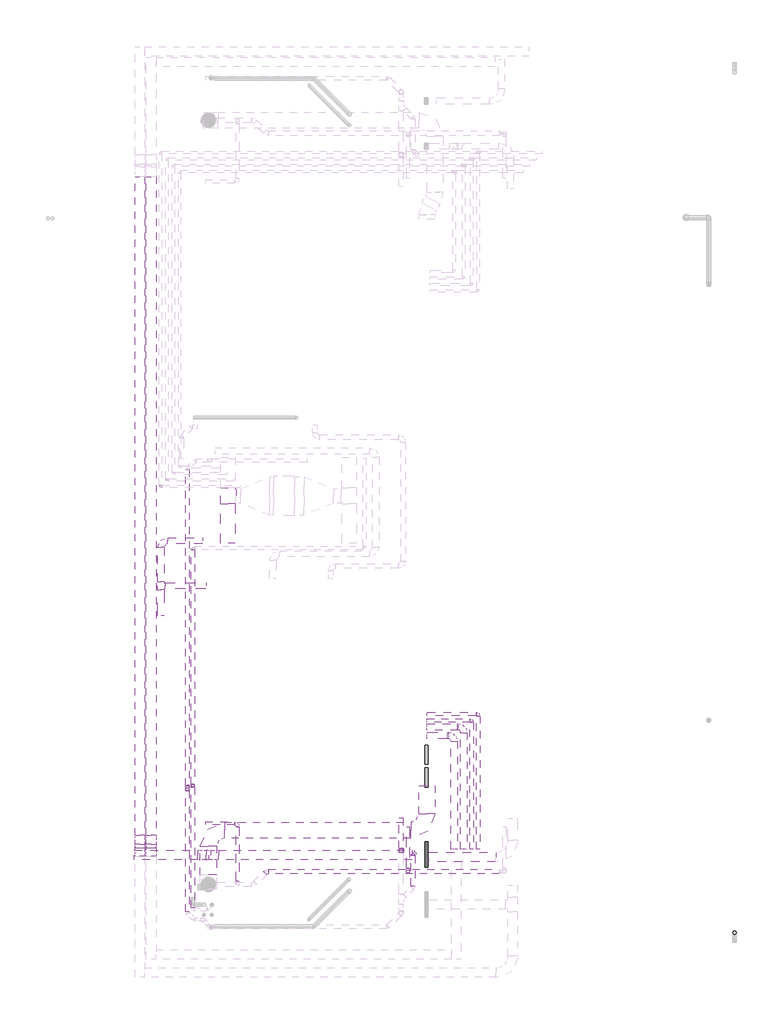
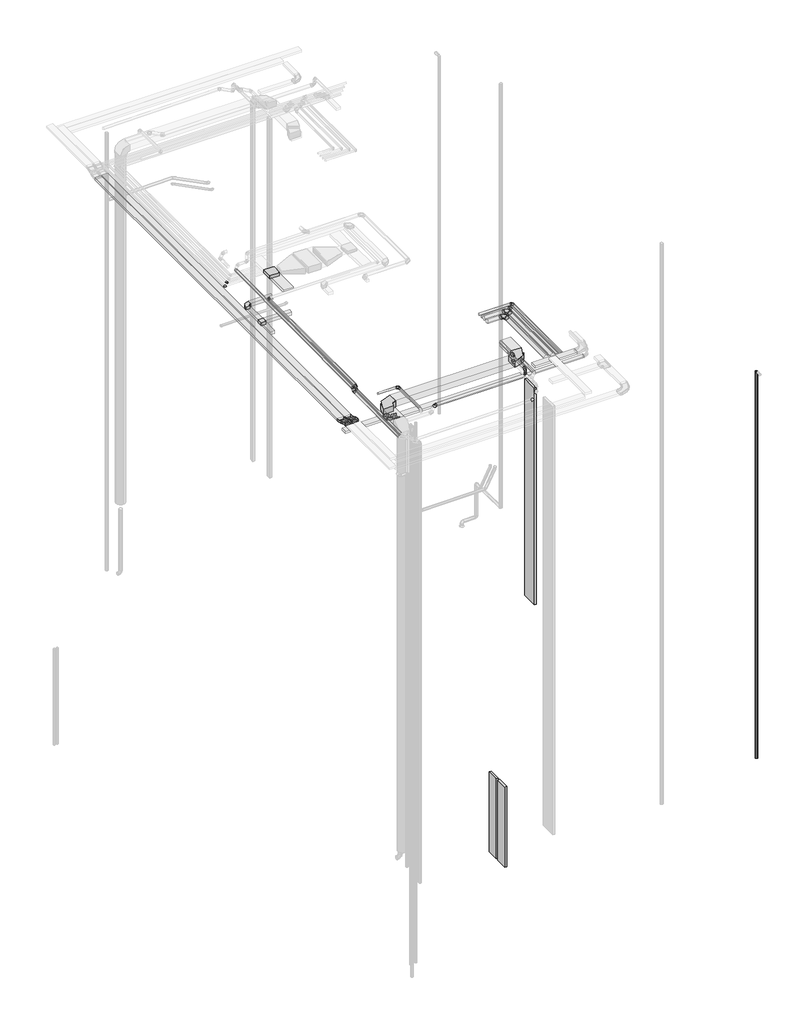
# One storey, part 2 of 5: 19 pipe segments, 14 pipe fittings, 13 duct segments, 11 cable carrier segments, 9 duct fittings, 6 cable carrier fittings.
"""IFC4 building model written with IfcOpenShell, lengths in millimetres."""

from ifc_helpers import new_model, si_unit, point, frame, frame_2d, origin, place, context, project, spatial, polyline, circle_curve, trimmed, segment, composite_curve, outline, extrude, transform, mapped, element, save
from components import m_codo_vertical_exterior_de_canal_el_547dc688, m_codo_vertical_interior_de_canal_el_a775c4ca, apt_33348139, ext_db029bdf, ext_fd4e5c35, m_codo_rectangular_radio_apt_1_w_a605e9b7, m_codo_rectangular_radio_ext_1_w_abe20169, m_codo_redondo_ext_1_d_96ea52f9, m_codo_redondo_ext_1_d_5003ae0d, pipe_fitting_8e92d537, pipe_fitting_3b77712d, pipe_fitting_2358b14d, pipe_fitting_3a68447e, pipe_fitting_87aeffad, pipe_fitting_620f18d1, pipe_fitting_207c3fd1

model = new_model("IFC4")

# Units and contexts
model_context = context("Model", 3, world=origin())
ifc_project = project(units=[si_unit("LENGTHUNIT", "METRE", prefix="MILLI")], contexts=[model_context])

# Site, building, storey
site = spatial("IfcSite", under=ifc_project)
building = spatial("IfcBuilding", under=site)
storey = spatial("IfcBuildingStorey", under=building, Name="Nivell 06 P06_PP", Elevation=29910.0)

# Cable carrier fittings
placement = place(None, origin())
m_codo_vertical_exterior_de_canal_el_shape = m_codo_vertical_exterior_de_canal_el_547dc688(model_context)
element("IfcCableCarrierFitting", 1, ObjectType="M_Codo vertical exterior de canal : EL", at=placement, inside=storey, context=model_context, shape_type="MappedRepresentation", body=[
    mapped(m_codo_vertical_exterior_de_canal_el_shape, transform((5357.0671065, -15355.3999814, 33160.0), x_axis=(0.0, 1.0, 0.0), y_axis=(0.0, 0.0, -1.0), z_axis=(-1.0, 0.0, 0.0))),
])
element("IfcCableCarrierFitting", 2, ObjectType="M_Codo vertical exterior de canal : EL", at=placement, inside=storey, context=model_context, shape_type="MappedRepresentation", body=[
    mapped(m_codo_vertical_exterior_de_canal_el_shape, transform((5008.2381883, -15355.3999814, 33160.0), x_axis=(0.0, -0.9238795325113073, 0.38268343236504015), y_axis=(0.0, -0.38268343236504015, -0.9238795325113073), z_axis=(1.0, 0.0, 0.0))),
])
element("IfcCableCarrierFitting", 3, ObjectType="M_Codo vertical exterior de canal : EL", at=placement, inside=storey, context=model_context, shape_type="MappedRepresentation", body=[
    mapped(m_codo_vertical_exterior_de_canal_el_shape, transform((6956.7785309, -15459.2996833, 32810.0), x_axis=(1.0, 0.0, 0.0), y_axis=(0.0, 0.0, -1.0), z_axis=(0.0, 1.0, 0.0))),
])
m_codo_vertical_interior_de_canal_el_shape = m_codo_vertical_interior_de_canal_el_a775c4ca(model_context)
element("IfcCableCarrierFitting", 4, ObjectType="M_Codo vertical interior de canal : EL", at=placement, inside=storey, context=model_context, shape_type="MappedRepresentation", body=[
    mapped(m_codo_vertical_interior_de_canal_el_shape, transform((5357.0671065, -14993.267947, 33010.0), x_axis=(0.0, 0.9238795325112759, -0.38268343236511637), y_axis=(0.0, 0.38268343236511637, 0.9238795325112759), z_axis=(1.0, 0.0, 0.0))),
])
element("IfcCableCarrierFitting", 5, ObjectType="M_Codo vertical interior de canal : EL", at=placement, inside=storey, context=model_context, shape_type="MappedRepresentation", body=[
    mapped(m_codo_vertical_interior_de_canal_el_shape, transform((5008.2381883, -14993.267947, 33010.0), x_axis=(0.0, -1.0, 0.0), y_axis=(0.0, 0.0, 1.0), z_axis=(-1.0, 0.0, 0.0))),
])
element("IfcCableCarrierFitting", 6, ObjectType="M_Codo vertical interior de canal : EL", at=placement, inside=storey, context=model_context, shape_type="MappedRepresentation", body=[
    mapped(m_codo_vertical_interior_de_canal_el_shape, transform((7318.9105653, -15459.2996833, 32660.0), x_axis=(0.9238795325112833, 0.0, -0.38268343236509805), y_axis=(0.38268343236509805, 0.0, 0.9238795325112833), z_axis=(0.0, -1.0, 0.0))),
])

# Cable carrier segments
element("IfcCableCarrierSegment", 7, ObjectType="EL", at=placement, inside=storey, context=model_context, shape_type="SweptSolid", body=[
    extrude(outline(polyline([(6812.1592023, -15309.2996833), (6812.1592023, -15609.2996833), (4831.7785309, -15609.2996833), (4831.7785309, -15309.2996833), (6812.1592023, -15309.2996833)])), frame((0.0, 0.0, 32760.0), z_axis=(0.0, 0.0, 1.0), x_axis=(1.0, 0.0, 0.0)), (0.0, 0.0, 1.0), 100.0),
])
element("IfcCableCarrierSegment", 8, ObjectType="EL", at=placement, inside=storey, context=model_context, shape_type="SweptSolid", body=[
    extrude(outline(polyline([(16089.6624278, -15371.1304394), (16089.6624278, -15671.1304394), (14011.0671065, -15671.1304394), (14011.0671065, -15371.1304394), (16089.6624278, -15371.1304394)])), frame((0.0, 0.0, 32960.0), z_axis=(0.0, 0.0, 1.0), x_axis=(1.0, 0.0, 0.0)), (0.0, 0.0, 1.0), 100.0),
])
element("IfcCableCarrierSegment", 9, ObjectType="EL", at=placement, inside=storey, context=model_context, shape_type="SweptSolid", body=[
    extrude(outline(polyline([(0.0, -300.0), (0.0, 0.0), (102.7302323, 0.0), (102.7302323, -300.0), (0.0, -300.0)])), frame((5207.0671065, -15240.9233153, 33058.4626023), z_axis=(0.0, 0.38268343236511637, 0.9238795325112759), x_axis=(0.0, 0.9238795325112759, -0.38268343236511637)), (0.0, 0.0, 1.0), 100.0),
])
element("IfcCableCarrierSegment", 10, ObjectType="EL", at=placement, inside=storey, context=model_context, shape_type="SweptSolid", body=[
    extrude(outline(polyline([(5507.0671065, -14848.6486184), (5207.0671065, -14848.6486184), (5207.0671065, 5634.423571), (5507.0671065, 5634.423571), (5507.0671065, -14848.6486184)])), frame((0.0, 0.0, 32960.0), z_axis=(0.0, 0.0, 1.0), x_axis=(1.0, 0.0, 0.0)), (0.0, 0.0, 1.0), 100.0),
])
element("IfcCableCarrierSegment", 11, ObjectType="EL", at=placement, inside=storey, context=model_context, shape_type="SweptSolid", body=[
    extrude(outline(polyline([(4858.2381883, 5634.423571), (5158.2381883, 5634.423571), (5158.2381883, -14848.6486184), (4858.2381883, -14848.6486184), (4858.2381883, 5634.423571)])), frame((0.0, 0.0, 32960.0), z_axis=(0.0, 0.0, 1.0), x_axis=(1.0, 0.0, 0.0)), (0.0, 0.0, 1.0), 100.0),
])
element("IfcCableCarrierSegment", 12, ObjectType="EL", at=placement, inside=storey, context=model_context, shape_type="SweptSolid", body=[
    extrude(outline(polyline([(0.0, -300.0), (0.0, 0.0), (102.7302323, 0.0), (102.7302323, -300.0), (0.0, -300.0)])), frame((5158.2381883, -15146.0129563, 33019.1494444), z_axis=(0.0, 0.3826834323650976, 0.9238795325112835), x_axis=(0.0, -0.9238795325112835, 0.3826834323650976)), (0.0, 0.0, 1.0), 100.0),
])
element("IfcCableCarrierSegment", 13, ObjectType="EL", at=placement, inside=storey, context=model_context, shape_type="SweptSolid", body=[
    extrude(outline(polyline([(7463.5298938, -15609.2996833), (7463.5298938, -15309.2996833), (13469.9876148, -15309.2996833), (13469.9876148, -15609.2996833), (7463.5298938, -15609.2996833)])), frame((0.0, 0.0, 32610.0), z_axis=(0.0, 0.0, 1.0), x_axis=(1.0, 0.0, 0.0)), (0.0, 0.0, 1.0), 100.0),
])
element("IfcCableCarrierSegment", 14, ObjectType="EL", at=placement, inside=storey, context=model_context, shape_type="SweptSolid", body=[
    extrude(outline(polyline([(0.0, -300.0), (0.0, 0.0), (102.7302323, 0.0), (102.7302323, -300.0), (0.0, -300.0)])), frame((7071.255197, -15309.2996833, 32708.4626023), z_axis=(0.38268343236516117, 0.0, 0.9238795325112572), x_axis=(0.9238795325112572, 0.0, -0.38268343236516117)), (0.0, 0.0, 1.0), 100.0),
])
element("IfcCableCarrierSegment", 15, ObjectType="SF", at=placement, inside=storey, context=model_context, shape_type="SweptSolid", body=[
    extrude(outline(polyline([(13974.6624278, -15038.9944754), (13974.6624278, -15838.9944754), (13874.6624278, -15838.9944754), (13874.6624278, -15038.9944754), (13974.6624278, -15038.9944754)])), frame((0.0, 0.0, 20935.0), z_axis=(0.0, 0.0, 1.0), x_axis=(1.0, 0.0, 0.0)), (0.0, 0.0, 1.0), 11143.2),
])
element("IfcCableCarrierSegment", 16, ObjectType="SF", at=placement, inside=storey, context=model_context, shape_type="SweptSolid", body=[
    extrude(outline(polyline([(49.9999999, -4.1381265), (49.9999999, -604.1381265), (-50.0, -604.1381265), (-50.0, -4.1381265), (49.9999999, -4.1381265)])), frame((13924.6410692, -12643.1326018, 5910.0000002), z_axis=(-3.1479117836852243e-06, -7.891726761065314e-12, 0.9999999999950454), x_axis=(-0.9999999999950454, 0.0, -3.1479117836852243e-06)), (0.0, 0.0, 1.0), 4120.0),
])
element("IfcCableCarrierSegment", 17, ObjectType="SF", at=placement, inside=storey, context=model_context, shape_type="SweptSolid", body=[
    extrude(outline(polyline([(49.9999999, -4.1381265), (49.9999999, -604.1381265), (-50.0, -604.1381265), (-50.0, -4.1381265), (49.9999999, -4.1381265)])), frame((13924.6410692, -13343.1326018, 5910.0000002), z_axis=(-3.1479117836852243e-06, -7.891726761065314e-12, 0.9999999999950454), x_axis=(-0.9999999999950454, 0.0, -3.1479117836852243e-06)), (0.0, 0.0, 1.0), 4120.0),
])

# Duct fittings
apt_shape = apt_33348139(model_context)
element("IfcDuctFitting", 18, ObjectType="M_Te rectangular : APT", at=placement, inside=storey, context=model_context, shape_type="MappedRepresentation", body=[
    mapped(apt_shape, transform((5665.7790997, -7084.7059364, 33060.0), x_axis=(0.0, 1.0, 0.0), y_axis=(-1.0, 0.0, 0.0), z_axis=(0.0, 0.0, 1.0))),
])
ext_shape = ext_db029bdf(model_context)
element("IfcDuctFitting", 19, ObjectType="M_Toma de derivación redonda : EXT", at=placement, inside=storey, context=model_context, shape_type="MappedRepresentation", body=[
    mapped(ext_shape, transform((13350.5896993, -15972.9719502, 33090.0), x_axis=(0.0, 0.0, 1.0), y_axis=(-1.0, 0.0, 0.0), z_axis=(0.0, -1.0, 0.0))),
])
ext_2_shape = ext_fd4e5c35(model_context)
element("IfcDuctFitting", 20, ObjectType="M_Te rectangular : EXT", at=placement, inside=storey, context=model_context, shape_type="MappedRepresentation", body=[
    mapped(ext_2_shape, transform((7746.1618178, -4289.9878585, 33167.5), x_axis=(0.0, 1.0, 0.0), y_axis=(-1.0, 0.0, 0.0), z_axis=(0.0, 0.0, 1.0))),
])
m_codo_rectangular_radio_apt_1_w_shape = m_codo_rectangular_radio_apt_1_w_a605e9b7(model_context)
element("IfcDuctFitting", 21, ObjectType="M_Codo rectangular - Radio : APT_1 W", at=placement, inside=storey, context=model_context, shape_type="MappedRepresentation", body=[
    mapped(m_codo_rectangular_radio_apt_1_w_shape, transform((5665.7790997, -5684.7059364, 33060.0), x_axis=(-1.0, 0.0, 0.0), y_axis=(0.0, -1.0, 0.0), z_axis=(0.0, 0.0, 1.0))),
])
m_codo_rectangular_radio_ext_1_w_shape = m_codo_rectangular_radio_ext_1_w_abe20169(model_context)
element("IfcDuctFitting", 22, ObjectType="M_Codo rectangular - Radio : EXT_1 W", at=placement, inside=storey, context=model_context, shape_type="MappedRepresentation", body=[
    mapped(m_codo_rectangular_radio_ext_1_w_shape, transform((7139.9876148, -14682.0405418, 32910.0), x_axis=(-1.0, 0.0, 0.0), y_axis=(0.0, -1.0, 0.0), z_axis=(0.0, 0.0, 1.0))),
])
element("IfcDuctFitting", 23, ObjectType="M_Codo rectangular - Radio : EXT_1 W", at=placement, inside=storey, context=model_context, shape_type="MappedRepresentation", body=[
    mapped(m_codo_rectangular_radio_ext_1_w_shape, transform((13940.4053207, -14682.0405418, 32910.0), x_axis=(1.0, 0.0, 0.0), y_axis=(0.0, 1.0, 0.0), z_axis=(0.0, 0.0, 1.0))),
])
m_codo_redondo_ext_1_d_shape = m_codo_redondo_ext_1_d_96ea52f9(model_context)
element("IfcDuctFitting", 24, ObjectType="M_Codo redondo : EXT_1 D", at=placement, inside=storey, context=model_context, shape_type="MappedRepresentation", body=[
    mapped(m_codo_redondo_ext_1_d_shape, transform((8050.5896993, -14471.4839002, 33360.0), x_axis=(1.0, 0.0, 0.0), y_axis=(0.0, 1.0, 0.0), z_axis=(0.0, 0.0, 1.0))),
])
element("IfcDuctFitting", 25, ObjectType="M_Codo redondo : EXT_1 D", at=placement, inside=storey, context=model_context, shape_type="MappedRepresentation", body=[
    mapped(m_codo_redondo_ext_1_d_shape, transform((13350.5896993, -15972.9719502, 33360.0), x_axis=(0.0, -1.0, 0.0), y_axis=(0.0, 0.0, 1.0), z_axis=(-1.0, 0.0, 0.0))),
])
m_codo_redondo_ext_1_d_2_shape = m_codo_redondo_ext_1_d_5003ae0d(model_context)
element("IfcDuctFitting", 26, ObjectType="M_Codo redondo : EXT_1 D", at=placement, inside=storey, context=model_context, shape_type="MappedRepresentation", body=[
    mapped(m_codo_redondo_ext_1_d_2_shape, transform((8950.5896993, -15972.9719502, 33015.0), x_axis=(0.7071067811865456, 0.7071067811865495, 0.0), y_axis=(-0.7071067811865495, 0.7071067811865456, 0.0), z_axis=(0.0, 0.0, 1.0))),
])

# Duct segments
element("IfcDuctSegment", 27, ObjectType="APT_Fibra de vidre rígida", at=placement, inside=storey, context=model_context, shape_type="SweptSolid", body=[
    extrude(outline(polyline([(7065.7790997, -6984.7059364), (7065.7790997, -7184.7059364), (5790.7790997, -7184.7059364), (5790.7790997, -6984.7059364), (7065.7790997, -6984.7059364)])), frame((0.0, 0.0, 32985.0), z_axis=(0.0, 0.0, 1.0), x_axis=(1.0, 0.0, 0.0)), (0.0, 0.0, 1.0), 150.0),
])
element("IfcDuctSegment", 28, ObjectType="APT_Fibra de vidre rígida", at=placement, inside=storey, context=model_context, shape_type="SweptSolid", body=[
    extrude(outline(polyline([(5765.7790997, -6959.7059364), (5565.7790997, -6959.7059364), (5565.7790997, -5884.7059364), (5765.7790997, -5884.7059364), (5765.7790997, -6959.7059364)])), frame((0.0, 0.0, 32985.0), z_axis=(0.0, 0.0, 1.0), x_axis=(1.0, 0.0, 0.0)), (0.0, 0.0, 1.0), 150.0),
])
element("IfcDuctSegment", 29, ObjectType="APT_Fibra de vidre rígida", at=placement, inside=storey, context=model_context, shape_type="SweptSolid", body=[
    extrude(outline(polyline([(5865.7790997, -5784.7059364), (5865.7790997, -5584.7059364), (6965.7790997, -5584.7059364), (6965.7790997, -5784.7059364), (5865.7790997, -5784.7059364)])), frame((0.0, 0.0, 32985.0), z_axis=(0.0, 0.0, 1.0), x_axis=(1.0, 0.0, 0.0)), (0.0, 0.0, 1.0), 150.0),
])
element("IfcDuctSegment", 30, ObjectType="APT_Fibra de vidre rígida", at=placement, inside=storey, context=model_context, shape_type="SweptSolid", body=[
    extrude(outline(polyline([(5565.7790997, -7209.7059364), (5765.7790997, -7209.7059364), (5765.7790997, -8009.7059364), (5565.7790997, -8009.7059364), (5565.7790997, -7209.7059364)])), frame((0.0, 0.0, 32985.0), z_axis=(0.0, 0.0, 1.0), x_axis=(1.0, 0.0, 0.0)), (0.0, 0.0, 1.0), 150.0),
])
element("IfcDuctSegment", 31, ObjectType="EXT_Acer Galvanitzat - Rígid", at=placement, inside=storey, context=model_context, shape_type="SweptSolid", body=[
    extrude(outline(composite_curve([segment(trimmed(circle_curve(frame_2d((-15972.9719502, 33015.0)), 75.0), [point((-15897.9719502, 33015.0))], [point((-15972.9719502, 32940.0))], False, "CARTESIAN"), True, "CONTINUOUS"), segment(trimmed(circle_curve(frame_2d((-15972.9719502, 33015.0)), 75.0), [point((-15972.9719502, 32940.0))], [point((-16047.9719502, 33015.0))], False, "CARTESIAN"), True, "CONTINUOUS"), segment(trimmed(circle_curve(frame_2d((-15972.9719502, 33015.0)), 75.0), [point((-16047.9719502, 33015.0))], [point((-15972.9719502, 33090.0))], False, "CARTESIAN"), True, "CONTINUOUS"), segment(trimmed(circle_curve(frame_2d((-15972.9719502, 33015.0)), 75.0), [point((-15972.9719502, 33090.0))], [point((-15897.9719502, 33015.0))], False, "CARTESIAN"), True, "CONTINUOUS")], self_intersect=False)), frame((9012.7217336, 0.0, 0.0), z_axis=(1.0, 0.0, 0.0), x_axis=(0.0, 1.0, 0.0)), (0.0, 0.0, 1.0), 7177.5126266),
])
element("IfcDuctSegment", 32, ObjectType="EXT_Acer Galvanitzat - Rígid", at=placement, inside=storey, context=model_context, shape_type="SweptSolid", body=[
    extrude(outline(composite_curve([segment(trimmed(circle_curve(frame_2d((-14471.4839002, 33360.0)), 50.0), [point((-14521.4839002, 33360.0))], [point((-14471.4839002, 33410.0))], False, "CARTESIAN"), True, "CONTINUOUS"), segment(trimmed(circle_curve(frame_2d((-14471.4839002, 33360.0)), 50.0), [point((-14471.4839002, 33410.0))], [point((-14421.4839002, 33360.0))], False, "CARTESIAN"), True, "CONTINUOUS"), segment(trimmed(circle_curve(frame_2d((-14471.4839002, 33360.0)), 50.0), [point((-14421.4839002, 33360.0))], [point((-14471.4839002, 33310.0))], False, "CARTESIAN"), True, "CONTINUOUS"), segment(trimmed(circle_curve(frame_2d((-14471.4839002, 33360.0)), 50.0), [point((-14471.4839002, 33310.0))], [point((-14521.4839002, 33360.0))], False, "CARTESIAN"), True, "CONTINUOUS")], self_intersect=False)), frame((7050.5896993, 0.0, 0.0), z_axis=(1.0, 0.0, 0.0), x_axis=(0.0, 1.0, 0.0)), (0.0, 0.0, 1.0), 900.0),
])
element("IfcDuctSegment", 33, ObjectType="EXT_Acer Galvanitzat - Rígid", at=placement, inside=storey, context=model_context, shape_type="SweptSolid", body=[
    extrude(outline(composite_curve([segment(trimmed(circle_curve(frame_2d((33360.0, 8050.5896993)), 50.0), [point((33360.0, 8100.5896993))], [point((33410.0, 8050.5896993))], False, "CARTESIAN"), True, "CONTINUOUS"), segment(trimmed(circle_curve(frame_2d((33360.0, 8050.5896993)), 50.0), [point((33410.0, 8050.5896993))], [point((33360.0, 8000.5896993))], False, "CARTESIAN"), True, "CONTINUOUS"), segment(trimmed(circle_curve(frame_2d((33360.0, 8050.5896993)), 50.0), [point((33360.0, 8000.5896993))], [point((33310.0, 8050.5896993))], False, "CARTESIAN"), True, "CONTINUOUS"), segment(trimmed(circle_curve(frame_2d((33360.0, 8050.5896993)), 50.0), [point((33310.0, 8050.5896993))], [point((33360.0, 8100.5896993))], False, "CARTESIAN"), True, "CONTINUOUS")], self_intersect=False)), frame((0.0, -16269.0292533, 0.0), z_axis=(0.0, 1.0, 0.0), x_axis=(0.0, 0.0, 1.0)), (0.0, 0.0, 1.0), 1697.545353),
])
element("IfcDuctSegment", 34, ObjectType="EXT_Acer Galvanitzat - Rígid", at=placement, inside=storey, context=model_context, shape_type="SweptSolid", body=[
    extrude(outline(composite_curve([segment(trimmed(circle_curve(frame_2d((33360.0, 13350.5896993)), 50.0), [point((33360.0, 13400.5896993))], [point((33410.0, 13350.5896993))], False, "CARTESIAN"), True, "CONTINUOUS"), segment(trimmed(circle_curve(frame_2d((33360.0, 13350.5896993)), 50.0), [point((33410.0, 13350.5896993))], [point((33360.0, 13300.5896993))], False, "CARTESIAN"), True, "CONTINUOUS"), segment(trimmed(circle_curve(frame_2d((33360.0, 13350.5896993)), 50.0), [point((33360.0, 13300.5896993))], [point((33310.0, 13350.5896993))], False, "CARTESIAN"), True, "CONTINUOUS"), segment(trimmed(circle_curve(frame_2d((33360.0, 13350.5896993)), 50.0), [point((33310.0, 13350.5896993))], [point((33360.0, 13400.5896993))], False, "CARTESIAN"), True, "CONTINUOUS")], self_intersect=False)), frame((0.0, -15872.9719502, 0.0), z_axis=(0.0, 1.0, 0.0), x_axis=(0.0, 0.0, 1.0)), (0.0, 0.0, 1.0), 1301.48805),
])
element("IfcDuctSegment", 35, ObjectType="EXT_Acer Galvanitzat - Rígid", at=placement, inside=storey, context=model_context, shape_type="SweptSolid", body=[
    extrude(outline(composite_curve([segment(trimmed(circle_curve(frame_2d((13350.5896993, -15972.9719502)), 50.0), [point((13300.5896993, -15972.9719502))], [point((13350.5896993, -15922.9719502))], False, "CARTESIAN"), True, "CONTINUOUS"), segment(trimmed(circle_curve(frame_2d((13350.5896993, -15972.9719502)), 50.0), [point((13350.5896993, -15922.9719502))], [point((13400.5896993, -15972.9719502))], False, "CARTESIAN"), True, "CONTINUOUS"), segment(trimmed(circle_curve(frame_2d((13350.5896993, -15972.9719502)), 50.0), [point((13400.5896993, -15972.9719502))], [point((13350.5896993, -16022.9719502))], False, "CARTESIAN"), True, "CONTINUOUS"), segment(trimmed(circle_curve(frame_2d((13350.5896993, -15972.9719502)), 50.0), [point((13350.5896993, -16022.9719502))], [point((13300.5896993, -15972.9719502))], False, "CARTESIAN"), True, "CONTINUOUS")], self_intersect=False)), frame((0.0, 0.0, 33191.6), z_axis=(0.0, 0.0, 1.0), x_axis=(1.0, 0.0, 0.0)), (0.0, 0.0, 1.0), 68.4),
])
element("IfcDuctSegment", 36, ObjectType="EXT_Planxa galvanitzada", at=placement, inside=storey, context=model_context, shape_type="SweptSolid", body=[
    extrude(outline(polyline([(14190.4053207, -14182.0405418), (13690.4053207, -14182.0405418), (13690.4053207, -13301.757421), (14190.4053207, -13301.757421), (14190.4053207, -14182.0405418)])), frame((0.0, 0.0, 32760.0), z_axis=(0.0, 0.0, 1.0), x_axis=(1.0, 0.0, 0.0)), (0.0, 0.0, 1.0), 300.0),
])
element("IfcDuctSegment", 37, ObjectType="EXT_Planxa galvanitzada", at=placement, inside=storey, context=model_context, shape_type="SweptSolid", body=[
    extrude(outline(polyline([(13440.4053207, -14432.0405418), (13440.4053207, -14932.0405418), (7639.9876148, -14932.0405418), (7639.9876148, -14432.0405418), (13440.4053207, -14432.0405418)])), frame((0.0, 0.0, 32760.0), z_axis=(0.0, 0.0, 1.0), x_axis=(1.0, 0.0, 0.0)), (0.0, 0.0, 1.0), 300.0),
])
element("IfcDuctSegment", 38, ObjectType="EXT_Planxa galvanitzada", at=placement, inside=storey, context=model_context, shape_type="SweptSolid", body=[
    extrude(outline(polyline([(7389.9876148, -16072.3280883), (6889.9876148, -16072.3280883), (6889.9876148, -15182.0405418), (7389.9876148, -15182.0405418), (7389.9876148, -16072.3280883)])), frame((0.0, 0.0, 32760.0), z_axis=(0.0, 0.0, 1.0), x_axis=(1.0, 0.0, 0.0)), (0.0, 0.0, 1.0), 300.0),
])
element("IfcDuctSegment", 39, ObjectType="EXT_Planxa galvanitzada", at=placement, inside=storey, context=model_context, shape_type="SweptSolid", body=[
    extrude(outline(polyline([(7521.1618178, -4539.9878585), (7971.1618178, -4539.9878585), (7971.1618178, -5765.0566725), (7521.1618178, -5765.0566725), (7521.1618178, -4539.9878585)])), frame((0.0, 0.0, 33092.5), z_axis=(0.0, 0.0, 1.0), x_axis=(1.0, 0.0, 0.0)), (0.0, 0.0, 1.0), 150.0),
])

# Pipe fittings
pipe_fitting_shape = pipe_fitting_8e92d537(model_context)
element("IfcPipeFitting", 40, ObjectType="M_Codo - Genérico : Estándar", at=placement, inside=storey, context=model_context, shape_type="MappedRepresentation", body=[
    mapped(pipe_fitting_shape, transform((13138.8500573, -15322.6757311, 33759.3648844), x_axis=(0.0, -0.9999500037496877, -0.009999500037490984), y_axis=(0.0, 0.009999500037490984, -0.9999500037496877), z_axis=(1.0, 0.0, 0.0))),
])
element("IfcPipeFitting", 41, ObjectType="M_Codo - Genérico : Estándar", at=placement, inside=storey, context=model_context, shape_type="MappedRepresentation", body=[
    mapped(pipe_fitting_shape, transform((13138.8606753, -15322.675714, 33389.2435958), x_axis=(0.0, 0.0, -1.0), y_axis=(0.0, -1.0, 0.0), z_axis=(-1.0, 0.0, 0.0))),
])
pipe_fitting_2_shape = pipe_fitting_3b77712d(model_context)
element("IfcPipeFitting", 42, ObjectType="M_Codo - Genérico : Estándar", at=placement, inside=storey, context=model_context, shape_type="MappedRepresentation", body=[
    mapped(pipe_fitting_2_shape, transform((15537.4352568, -11073.2087902, 32965.0), x_axis=(1.0, 0.0, 0.0), y_axis=(0.0, 1.0, 0.0), z_axis=(0.0, 0.0, 1.0))),
])
element("IfcPipeFitting", 43, ObjectType="M_Codo - Genérico : Estándar", at=placement, inside=storey, context=model_context, shape_type="MappedRepresentation", body=[
    mapped(pipe_fitting_2_shape, transform((15337.4352568, -11273.2087902, 32965.0), x_axis=(1.0, 0.0, 0.0), y_axis=(0.0, 1.0, 0.0), z_axis=(0.0, 0.0, 1.0))),
])
pipe_fitting_3_shape = pipe_fitting_2358b14d(model_context)
element("IfcPipeFitting", 44, ObjectType="Codo 90º Soldadura a Tope SDR 11 BluePipe : Estándar", at=placement, inside=storey, context=model_context, shape_type="MappedRepresentation", body=[
    mapped(pipe_fitting_3_shape, transform((14787.4352568, -11743.2087902, 33010.0), x_axis=(1.0, 0.0, 0.0), y_axis=(0.0, 1.0, 0.0), z_axis=(0.0, 0.0, 1.0))),
])
element("IfcPipeFitting", 45, ObjectType="Codo 90º Soldadura a Tope SDR 11 BluePipe : Estándar", at=placement, inside=storey, context=model_context, shape_type="MappedRepresentation", body=[
    mapped(pipe_fitting_3_shape, transform((15087.4352568, -11473.2087902, 33010.0), x_axis=(1.0, 0.0, 0.0), y_axis=(0.0, 1.0, 0.0), z_axis=(0.0, 0.0, 1.0))),
])
pipe_fitting_4_shape = pipe_fitting_3a68447e(model_context)
element("IfcPipeFitting", 46, ObjectType="M_Codo - Genérico : Estándar", at=placement, inside=storey, context=model_context, shape_type="MappedRepresentation", body=[
    mapped(pipe_fitting_4_shape, transform((5845.7381883, -3794.9253722, 33022.5), x_axis=(0.0, -1.0, 0.0), y_axis=(1.0, 0.0, 0.0), z_axis=(0.0, 0.0, 1.0))),
])
element("IfcPipeFitting", 47, ObjectType="M_Codo - Genérico : Estándar", at=placement, inside=storey, context=model_context, shape_type="MappedRepresentation", body=[
    mapped(pipe_fitting_4_shape, transform((5645.7381883, -3994.9253722, 33022.5), x_axis=(0.0, -1.0, 0.0), y_axis=(1.0, 0.0, 0.0), z_axis=(0.0, 0.0, 1.0))),
])
pipe_fitting_5_shape = pipe_fitting_87aeffad(model_context)
element("IfcPipeFitting", 48, ObjectType="M_Codo - Genérico : Estándar", at=placement, inside=storey, context=model_context, shape_type="MappedRepresentation", body=[
    mapped(pipe_fitting_5_shape, transform((6653.8941113, -5912.8731458, 33210.8), x_axis=(-1.0, 0.0, 0.0), y_axis=(0.0, -1.0, 0.0), z_axis=(0.0, 0.0, 1.0))),
])
element("IfcPipeFitting", 49, ObjectType="M_Codo - Genérico : Estándar", at=placement, inside=storey, context=model_context, shape_type="MappedRepresentation", body=[
    mapped(pipe_fitting_5_shape, transform((6653.8941113, -13303.5043958, 33210.8), x_axis=(0.0, -1.0, 0.0), y_axis=(0.0, 0.0, -1.0), z_axis=(1.0, 0.0, 0.0))),
])
element("IfcPipeFitting", 50, ObjectType="M_Codo - Genérico : Estándar", at=placement, inside=storey, context=model_context, shape_type="MappedRepresentation", body=[
    mapped(pipe_fitting_5_shape, transform((6653.8941113, -13303.5043958, 33039.2), x_axis=(0.0, 1.0, 0.0), y_axis=(0.0, 0.0, 1.0), z_axis=(1.0, 0.0, 0.0))),
])
pipe_fitting_6_shape = pipe_fitting_620f18d1(model_context)
element("IfcPipeFitting", 51, ObjectType="M_Codo - Genérico : Estándar", at=placement, inside=storey, context=model_context, shape_type="MappedRepresentation", body=[
    mapped(pipe_fitting_6_shape, transform((13513.9151147, -15438.203365, 33389.642267), x_axis=(-0.706897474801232, -0.7072453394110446, -0.009999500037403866), y_axis=(0.7073039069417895, -0.706897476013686, -0.004140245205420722), z_axis=(-0.004140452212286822, -0.00999941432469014, 0.9999414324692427))),
])
pipe_fitting_7_shape = pipe_fitting_207c3fd1(model_context)
element("IfcPipeFitting", 52, ObjectType="M_Codo - Genérico : Estándar", at=placement, inside=storey, context=model_context, shape_type="MappedRepresentation", body=[
    mapped(pipe_fitting_7_shape, transform((6489.9549591, -13317.3596668, 33160.2690936), x_axis=(0.0, -0.9999500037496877, -0.009999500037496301), y_axis=(0.0, 0.009999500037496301, -0.9999500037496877), z_axis=(1.0, 0.0, 0.0))),
])
element("IfcPipeFitting", 53, ObjectType="M_Codo - Genérico : Estándar", at=placement, inside=storey, context=model_context, shape_type="MappedRepresentation", body=[
    mapped(pipe_fitting_7_shape, transform((6489.9549591, -13438.5717881, 33039.0569724), x_axis=(0.0, 0.9999500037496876, 0.009999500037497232), y_axis=(0.0, -0.009999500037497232, 0.9999500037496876), z_axis=(1.0, 0.0, 0.0))),
])

# Pipe segments
element("IfcPipeSegment", 54, ObjectType="PVC_Baixant", at=placement, inside=storey, context=model_context, shape_type="SweptSolid", body=[
    extrude(outline(composite_curve([segment(trimmed(circle_curve(frame_2d((0.0, -62.5000001)), 62.5), [point((-62.5, -62.5000001))], [point((0.0, 0.0))], False, "CARTESIAN"), True, "CONTINUOUS"), segment(trimmed(circle_curve(frame_2d((0.0, -62.5000001)), 62.5), [point((0.0, 0.0))], [point((62.5, -62.5000001))], False, "CARTESIAN"), True, "CONTINUOUS"), segment(trimmed(circle_curve(frame_2d((0.0, -62.5000001)), 62.5), [point((62.5, -62.5000001))], [point((0.0, -125.0))], False, "CARTESIAN"), True, "CONTINUOUS"), segment(trimmed(circle_curve(frame_2d((0.0, -62.5000001)), 62.5), [point((0.0, -125.0))], [point((-62.5, -62.5000001))], False, "CARTESIAN"), True, "CONTINUOUS")], self_intersect=False)), frame((13138.8500573, -15251.3276017, 33697.5752407), z_axis=(0.0, 0.9999500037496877, 0.009999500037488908), x_axis=(1.0, 0.0, 0.0)), (0.0, 0.0, 1.0), 951.6070688),
])
element("IfcPipeSegment", 55, ObjectType="PVC_Baixant", at=placement, inside=storey, context=model_context, shape_type="SweptSolid", body=[
    extrude(outline(composite_curve([segment(trimmed(circle_curve(frame_2d((0.0, -62.5)), 62.5), [point((-62.5, -62.5))], [point((0.0, 0.0))], False, "CARTESIAN"), True, "CONTINUOUS"), segment(trimmed(circle_curve(frame_2d((0.0, -62.5)), 62.5), [point((0.0, 0.0))], [point((62.5000001, -62.5))], False, "CARTESIAN"), True, "CONTINUOUS"), segment(trimmed(circle_curve(frame_2d((0.0, -62.5)), 62.5), [point((62.5000001, -62.5))], [point((0.0, -125.0))], False, "CARTESIAN"), True, "CONTINUOUS"), segment(trimmed(circle_curve(frame_2d((0.0, -62.5)), 62.5), [point((0.0, -125.0))], [point((-62.5, -62.5))], False, "CARTESIAN"), True, "CONTINUOUS")], self_intersect=False)), frame((13138.8606753, -15385.175714, 33459.9702879), z_axis=(-4.643391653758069e-05, -7.479517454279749e-08, 0.9999999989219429), x_axis=(-0.9999999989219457, 3.4745539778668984e-12, -4.643391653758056e-05)), (0.0, 0.0, 1.0), 228.6678952),
])
element("IfcPipeSegment", 56, ObjectType="PVC_Baixant", at=placement, inside=storey, context=model_context, shape_type="SweptSolid", body=[
    extrude(outline(composite_curve([segment(trimmed(circle_curve(frame_2d((0.0, -55.0)), 55.0), [point((-55.0, -55.0))], [point((0.0, 0.0))], False, "CARTESIAN"), True, "CONTINUOUS"), segment(trimmed(circle_curve(frame_2d((0.0, -55.0)), 55.0), [point((0.0, 0.0))], [point((55.0, -55.0))], False, "CARTESIAN"), True, "CONTINUOUS"), segment(trimmed(circle_curve(frame_2d((0.0, -55.0)), 55.0), [point((55.0, -55.0))], [point((0.0, -110.0))], False, "CARTESIAN"), True, "CONTINUOUS"), segment(trimmed(circle_curve(frame_2d((0.0, -55.0)), 55.0), [point((0.0, -110.0))], [point((-55.0, -55.0))], False, "CARTESIAN"), True, "CONTINUOUS")], self_intersect=False)), frame((6489.9549591, -17224.2051829, 32946.1978885), z_axis=(0.0, 0.9999500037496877, 0.009999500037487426), x_axis=(1.0, 0.0, 0.0)), (0.0, 0.0, 1.0), 3760.6710139),
])
element("IfcPipeSegment", 57, ObjectType="PPR_CLI_Aquatherm Blue Pipe", at=placement, inside=storey, context=model_context, shape_type="SweptSolid", body=[
    extrude(outline(composite_curve([segment(trimmed(circle_curve(frame_2d((-11743.2087902, 33010.0)), 100.0), [point((-11643.2087902, 33010.0))], [point((-11743.2087902, 32910.0))], False, "CARTESIAN"), True, "CONTINUOUS"), segment(trimmed(circle_curve(frame_2d((-11743.2087902, 33010.0)), 100.0), [point((-11743.2087902, 32910.0))], [point((-11843.2087902, 33010.0))], False, "CARTESIAN"), True, "CONTINUOUS"), segment(trimmed(circle_curve(frame_2d((-11743.2087902, 33010.0)), 100.0), [point((-11843.2087902, 33010.0))], [point((-11743.2087902, 33110.0))], False, "CARTESIAN"), True, "CONTINUOUS"), segment(trimmed(circle_curve(frame_2d((-11743.2087902, 33010.0)), 100.0), [point((-11743.2087902, 33110.0))], [point((-11643.2087902, 33010.0))], False, "CARTESIAN"), True, "CONTINUOUS")], self_intersect=False)), frame((13947.4352568, 0.0, 0.0), z_axis=(1.0, 0.0, 0.0), x_axis=(0.0, 1.0, 0.0)), (0.0, 0.0, 1.0), 665.0),
])
element("IfcPipeSegment", 58, ObjectType="PPR_CLI_Aquatherm Blue Pipe", at=placement, inside=storey, context=model_context, shape_type="SweptSolid", body=[
    extrude(outline(composite_curve([segment(trimmed(circle_curve(frame_2d((33010.0, 14787.4352568)), 100.0), [point((33010.0, 14687.4352568))], [point((32910.0, 14787.4352568))], False, "CARTESIAN"), True, "CONTINUOUS"), segment(trimmed(circle_curve(frame_2d((33010.0, 14787.4352568)), 100.0), [point((32910.0, 14787.4352568))], [point((33010.0, 14887.4352568))], False, "CARTESIAN"), True, "CONTINUOUS"), segment(trimmed(circle_curve(frame_2d((33010.0, 14787.4352568)), 100.0), [point((33010.0, 14887.4352568))], [point((33110.0, 14787.4352568))], False, "CARTESIAN"), True, "CONTINUOUS"), segment(trimmed(circle_curve(frame_2d((33010.0, 14787.4352568)), 100.0), [point((33110.0, 14787.4352568))], [point((33010.0, 14687.4352568))], False, "CARTESIAN"), True, "CONTINUOUS")], self_intersect=False)), frame((0.0, -15273.2087902, 0.0), z_axis=(0.0, 1.0, 0.0), x_axis=(0.0, 0.0, 1.0)), (0.0, 0.0, 1.0), 3355.0),
])
element("IfcPipeSegment", 59, ObjectType="PPR_CLI_Aquatherm Blue Pipe", at=placement, inside=storey, context=model_context, shape_type="SweptSolid", body=[
    extrude(outline(composite_curve([segment(trimmed(circle_curve(frame_2d((33010.0, 15087.4352568)), 100.0), [point((33010.0, 14987.4352568))], [point((32910.0, 15087.4352568))], False, "CARTESIAN"), True, "CONTINUOUS"), segment(trimmed(circle_curve(frame_2d((33010.0, 15087.4352568)), 100.0), [point((32910.0, 15087.4352568))], [point((33010.0, 15187.4352568))], False, "CARTESIAN"), True, "CONTINUOUS"), segment(trimmed(circle_curve(frame_2d((33010.0, 15087.4352568)), 100.0), [point((33010.0, 15187.4352568))], [point((33110.0, 15087.4352568))], False, "CARTESIAN"), True, "CONTINUOUS"), segment(trimmed(circle_curve(frame_2d((33010.0, 15087.4352568)), 100.0), [point((33110.0, 15087.4352568))], [point((33010.0, 14987.4352568))], False, "CARTESIAN"), True, "CONTINUOUS")], self_intersect=False)), frame((0.0, -15273.2087902, 0.0), z_axis=(0.0, 1.0, 0.0), x_axis=(0.0, 0.0, 1.0)), (0.0, 0.0, 1.0), 3625.0),
])
element("IfcPipeSegment", 60, ObjectType="PPR_CLI_Aquatherm Blue Pipe", at=placement, inside=storey, context=model_context, shape_type="SweptSolid", body=[
    extrude(outline(composite_curve([segment(trimmed(circle_curve(frame_2d((32965.0, 15337.4352568)), 55.0), [point((32965.0, 15282.4352568))], [point((32910.0, 15337.4352568))], False, "CARTESIAN"), True, "CONTINUOUS"), segment(trimmed(circle_curve(frame_2d((32965.0, 15337.4352568)), 55.0), [point((32910.0, 15337.4352568))], [point((32965.0, 15392.4352568))], False, "CARTESIAN"), True, "CONTINUOUS"), segment(trimmed(circle_curve(frame_2d((32965.0, 15337.4352568)), 55.0), [point((32965.0, 15392.4352568))], [point((33020.0, 15337.4352568))], False, "CARTESIAN"), True, "CONTINUOUS"), segment(trimmed(circle_curve(frame_2d((32965.0, 15337.4352568)), 55.0), [point((33020.0, 15337.4352568))], [point((32965.0, 15282.4352568))], False, "CARTESIAN"), True, "CONTINUOUS")], self_intersect=False)), frame((0.0, -15273.2087902, 0.0), z_axis=(0.0, 1.0, 0.0), x_axis=(0.0, 0.0, 1.0)), (0.0, 0.0, 1.0), 3937.0625),
])
element("IfcPipeSegment", 61, ObjectType="PPR_CLI_Aquatherm Blue Pipe", at=placement, inside=storey, context=model_context, shape_type="SweptSolid", body=[
    extrude(outline(composite_curve([segment(trimmed(circle_curve(frame_2d((32965.0, 15537.4352568)), 55.0), [point((32965.0, 15482.4352568))], [point((32910.0, 15537.4352568))], False, "CARTESIAN"), True, "CONTINUOUS"), segment(trimmed(circle_curve(frame_2d((32965.0, 15537.4352568)), 55.0), [point((32910.0, 15537.4352568))], [point((32965.0, 15592.4352568))], False, "CARTESIAN"), True, "CONTINUOUS"), segment(trimmed(circle_curve(frame_2d((32965.0, 15537.4352568)), 55.0), [point((32965.0, 15592.4352568))], [point((33020.0, 15537.4352568))], False, "CARTESIAN"), True, "CONTINUOUS"), segment(trimmed(circle_curve(frame_2d((32965.0, 15537.4352568)), 55.0), [point((33020.0, 15537.4352568))], [point((32965.0, 15482.4352568))], False, "CARTESIAN"), True, "CONTINUOUS")], self_intersect=False)), frame((0.0, -15273.2087902, 0.0), z_axis=(0.0, 1.0, 0.0), x_axis=(0.0, 0.0, 1.0)), (0.0, 0.0, 1.0), 4137.0625),
])
element("IfcPipeSegment", 62, ObjectType="PPR_CLI_Aquatherm Blue Pipe", at=placement, inside=storey, context=model_context, shape_type="SweptSolid", body=[
    extrude(outline(composite_curve([segment(trimmed(circle_curve(frame_2d((-11473.2087902, 33010.0)), 100.0), [point((-11373.2087902, 33010.0))], [point((-11473.2087902, 32910.0))], False, "CARTESIAN"), True, "CONTINUOUS"), segment(trimmed(circle_curve(frame_2d((-11473.2087902, 33010.0)), 100.0), [point((-11473.2087902, 32910.0))], [point((-11573.2087902, 33010.0))], False, "CARTESIAN"), True, "CONTINUOUS"), segment(trimmed(circle_curve(frame_2d((-11473.2087902, 33010.0)), 100.0), [point((-11573.2087902, 33010.0))], [point((-11473.2087902, 33110.0))], False, "CARTESIAN"), True, "CONTINUOUS"), segment(trimmed(circle_curve(frame_2d((-11473.2087902, 33010.0)), 100.0), [point((-11473.2087902, 33110.0))], [point((-11373.2087902, 33010.0))], False, "CARTESIAN"), True, "CONTINUOUS")], self_intersect=False)), frame((13947.4352568, 0.0, 0.0), z_axis=(1.0, 0.0, 0.0), x_axis=(0.0, 1.0, 0.0)), (0.0, 0.0, 1.0), 965.0),
])
element("IfcPipeSegment", 63, ObjectType="PPR_CLI_Aquatherm Blue Pipe", at=placement, inside=storey, context=model_context, shape_type="SweptSolid", body=[
    extrude(outline(composite_curve([segment(trimmed(circle_curve(frame_2d((-11273.2087902, 32965.0)), 55.0), [point((-11218.2087902, 32965.0))], [point((-11273.2087902, 32910.0))], False, "CARTESIAN"), True, "CONTINUOUS"), segment(trimmed(circle_curve(frame_2d((-11273.2087902, 32965.0)), 55.0), [point((-11273.2087902, 32910.0))], [point((-11328.2087902, 32965.0))], False, "CARTESIAN"), True, "CONTINUOUS"), segment(trimmed(circle_curve(frame_2d((-11273.2087902, 32965.0)), 55.0), [point((-11328.2087902, 32965.0))], [point((-11273.2087902, 33020.0))], False, "CARTESIAN"), True, "CONTINUOUS"), segment(trimmed(circle_curve(frame_2d((-11273.2087902, 32965.0)), 55.0), [point((-11273.2087902, 33020.0))], [point((-11218.2087902, 32965.0))], False, "CARTESIAN"), True, "CONTINUOUS")], self_intersect=False)), frame((13947.4352568, 0.0, 0.0), z_axis=(1.0, 0.0, 0.0), x_axis=(0.0, 1.0, 0.0)), (0.0, 0.0, 1.0), 1327.0625),
])
element("IfcPipeSegment", 64, ObjectType="PPR_CLI_Aquatherm Blue Pipe", at=placement, inside=storey, context=model_context, shape_type="SweptSolid", body=[
    extrude(outline(composite_curve([segment(trimmed(circle_curve(frame_2d((-11073.2087902, 32965.0)), 55.0), [point((-11018.2087902, 32965.0))], [point((-11073.2087902, 32910.0))], False, "CARTESIAN"), True, "CONTINUOUS"), segment(trimmed(circle_curve(frame_2d((-11073.2087902, 32965.0)), 55.0), [point((-11073.2087902, 32910.0))], [point((-11128.2087902, 32965.0))], False, "CARTESIAN"), True, "CONTINUOUS"), segment(trimmed(circle_curve(frame_2d((-11073.2087902, 32965.0)), 55.0), [point((-11128.2087902, 32965.0))], [point((-11073.2087902, 33020.0))], False, "CARTESIAN"), True, "CONTINUOUS"), segment(trimmed(circle_curve(frame_2d((-11073.2087902, 32965.0)), 55.0), [point((-11073.2087902, 33020.0))], [point((-11018.2087902, 32965.0))], False, "CARTESIAN"), True, "CONTINUOUS")], self_intersect=False)), frame((13947.4352568, 0.0, 0.0), z_axis=(1.0, 0.0, 0.0), x_axis=(0.0, 1.0, 0.0)), (0.0, 0.0, 1.0), 1527.0625),
])
element("IfcPipeSegment", 65, ObjectType="AN_CI", at=placement, inside=storey, context=model_context, shape_type="SweptSolid", body=[
    extrude(outline(composite_curve([segment(trimmed(circle_curve(frame_2d((23514.9203808, -17871.7519775)), 50.8), [point((23565.7203808, -17871.7519775))], [point((23514.9203808, -17922.5519775))], False, "CARTESIAN"), True, "CONTINUOUS"), segment(trimmed(circle_curve(frame_2d((23514.9203808, -17871.7519775)), 50.8), [point((23514.9203808, -17922.5519775))], [point((23464.1203808, -17871.7519775))], False, "CARTESIAN"), True, "CONTINUOUS"), segment(trimmed(circle_curve(frame_2d((23514.9203808, -17871.7519775)), 50.8), [point((23464.1203808, -17871.7519775))], [point((23514.9203808, -17820.9519775))], False, "CARTESIAN"), True, "CONTINUOUS"), segment(trimmed(circle_curve(frame_2d((23514.9203808, -17871.7519775)), 50.8), [point((23514.9203808, -17820.9519775))], [point((23565.7203808, -17871.7519775))], False, "CARTESIAN"), True, "CONTINUOUS")], self_intersect=False)), frame((0.0, 0.0, 10915.6093458), z_axis=(0.0, 0.0, 1.0), x_axis=(1.0, 0.0, 0.0)), (0.0, 0.0, 1.0), 19900.0),
])
element("IfcPipeSegment", 66, ObjectType="AN_CI", at=placement, inside=storey, context=model_context, shape_type="SweptSolid", body=[
    extrude(outline(composite_curve([segment(trimmed(circle_curve(frame_2d((33039.2, 6653.8941113)), 50.8), [point((33039.2, 6704.6941113))], [point((33090.0, 6653.8941113))], False, "CARTESIAN"), True, "CONTINUOUS"), segment(trimmed(circle_curve(frame_2d((33039.2, 6653.8941113)), 50.8), [point((33090.0, 6653.8941113))], [point((33039.2, 6603.0941113))], False, "CARTESIAN"), True, "CONTINUOUS"), segment(trimmed(circle_curve(frame_2d((33039.2, 6653.8941113)), 50.8), [point((33039.2, 6603.0941113))], [point((32988.4, 6653.8941113))], False, "CARTESIAN"), True, "CONTINUOUS"), segment(trimmed(circle_curve(frame_2d((33039.2, 6653.8941113)), 50.8), [point((32988.4, 6653.8941113))], [point((33039.2, 6704.6941113))], False, "CARTESIAN"), True, "CONTINUOUS")], self_intersect=False)), frame((0.0, -17100.4856458, 0.0), z_axis=(0.0, 1.0, 0.0), x_axis=(0.0, 0.0, 1.0)), (0.0, 0.0, 1.0), 3744.59375),
])
element("IfcPipeSegment", 67, ObjectType="AN_CI", at=placement, inside=storey, context=model_context, shape_type="SweptSolid", body=[
    extrude(outline(composite_curve([segment(trimmed(circle_curve(frame_2d((33210.8, 6653.8941113)), 50.8), [point((33210.8, 6603.0941113))], [point((33160.0, 6653.8941113))], False, "CARTESIAN"), True, "CONTINUOUS"), segment(trimmed(circle_curve(frame_2d((33210.8, 6653.8941113)), 50.8), [point((33160.0, 6653.8941113))], [point((33210.8, 6704.6941113))], False, "CARTESIAN"), True, "CONTINUOUS"), segment(trimmed(circle_curve(frame_2d((33210.8, 6653.8941113)), 50.8), [point((33210.8, 6704.6941113))], [point((33261.6, 6653.8941113))], False, "CARTESIAN"), True, "CONTINUOUS"), segment(trimmed(circle_curve(frame_2d((33210.8, 6653.8941113)), 50.8), [point((33261.6, 6653.8941113))], [point((33210.8, 6603.0941113))], False, "CARTESIAN"), True, "CONTINUOUS")], self_intersect=False)), frame((0.0, -13251.1168958, 0.0), z_axis=(0.0, 1.0, 0.0), x_axis=(0.0, 0.0, 1.0)), (0.0, 0.0, 1.0), 7285.85625),
])
element("IfcPipeSegment", 68, ObjectType="AN_CI", at=placement, inside=storey, context=model_context, shape_type="SweptSolid", body=[
    extrude(outline(composite_curve([segment(trimmed(circle_curve(frame_2d((6653.8941113, -13303.5043958)), 50.8), [point((6704.6941113, -13303.5043958))], [point((6653.8941113, -13354.3043958))], False, "CARTESIAN"), True, "CONTINUOUS"), segment(trimmed(circle_curve(frame_2d((6653.8941113, -13303.5043958)), 50.8), [point((6653.8941113, -13354.3043958))], [point((6603.0941113, -13303.5043958))], False, "CARTESIAN"), True, "CONTINUOUS"), segment(trimmed(circle_curve(frame_2d((6653.8941113, -13303.5043958)), 50.8), [point((6603.0941113, -13303.5043958))], [point((6653.8941113, -13252.7043958))], False, "CARTESIAN"), True, "CONTINUOUS"), segment(trimmed(circle_curve(frame_2d((6653.8941113, -13303.5043958)), 50.8), [point((6653.8941113, -13252.7043958))], [point((6704.6941113, -13303.5043958))], False, "CARTESIAN"), True, "CONTINUOUS")], self_intersect=False)), frame((0.0, 0.0, 33091.5875), z_axis=(0.0, 0.0, 1.0), x_axis=(1.0, 0.0, 0.0)), (0.0, 0.0, 1.0), 66.825),
])
element("IfcPipeSegment", 69, ObjectType="PVC_Baixant", at=placement, inside=storey, context=model_context, shape_type="SweptSolid", body=[
    extrude(outline(composite_curve([segment(trimmed(circle_curve(frame_2d((1e-07, -62.5)), 62.5), [point((-62.4968786, -61.8753698))], [point((0.6246302, -0.0031214))], False, "CARTESIAN"), True, "CONTINUOUS"), segment(trimmed(circle_curve(frame_2d((1e-07, -62.5)), 62.5), [point((0.6246302, -0.0031214))], [point((62.4968786, -63.1246301))], False, "CARTESIAN"), True, "CONTINUOUS"), segment(trimmed(circle_curve(frame_2d((1e-07, -62.5)), 62.5), [point((62.4968786, -63.1246301))], [point((-0.6246301, -124.9968786))], False, "CARTESIAN"), True, "CONTINUOUS"), segment(trimmed(circle_curve(frame_2d((1e-07, -62.5)), 62.5), [point((-0.6246301, -124.9968786))], [point((-62.4968786, -61.8753698))], False, "CARTESIAN"), True, "CONTINUOUS")], self_intersect=False)), frame((13534.8239795, -15416.4006331, 33327.4442818), z_axis=(0.7068974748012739, 0.7072453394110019, 0.009999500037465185), x_axis=(0.7073160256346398, -0.7068268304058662, -0.009993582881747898)), (0.0, 0.0, 1.0), 59.6556038),
])
element("IfcPipeSegment", 70, ObjectType="PVC_Baixant", at=placement, inside=storey, context=model_context, shape_type="SweptSolid", body=[
    extrude(outline(composite_curve([segment(trimmed(circle_curve(frame_2d((0.0, -62.5)), 62.5), [point((-62.5, -62.5))], [point((0.0, 0.0))], False, "CARTESIAN"), True, "CONTINUOUS"), segment(trimmed(circle_curve(frame_2d((0.0, -62.5)), 62.5), [point((0.0, 0.0))], [point((62.5, -62.5))], False, "CARTESIAN"), True, "CONTINUOUS"), segment(trimmed(circle_curve(frame_2d((0.0, -62.5)), 62.5), [point((62.5, -62.5))], [point((0.0, -124.9999999))], False, "CARTESIAN"), True, "CONTINUOUS"), segment(trimmed(circle_curve(frame_2d((0.0, -62.5)), 62.5), [point((0.0, -124.9999999))], [point((-62.5, -62.5))], False, "CARTESIAN"), True, "CONTINUOUS")], self_intersect=False)), frame((13513.9151147, -16427.9468197, 33317.2417076), z_axis=(0.0, 0.9999500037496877, 0.009999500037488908), x_axis=(1.0, 0.0, 0.0)), (0.0, 0.0, 1.0), 960.8395851),
])
element("IfcPipeSegment", 71, ObjectType="PVC_Baixant", at=placement, inside=storey, context=model_context, shape_type="SweptSolid", body=[
    extrude(outline(composite_curve([segment(trimmed(circle_curve(frame_2d((0.0, -55.0)), 55.0), [point((-55.0, -55.0))], [point((0.0, 0.0))], False, "CARTESIAN"), True, "CONTINUOUS"), segment(trimmed(circle_curve(frame_2d((0.0, -55.0)), 55.0), [point((0.0, 0.0))], [point((55.0, -55.0))], False, "CARTESIAN"), True, "CONTINUOUS"), segment(trimmed(circle_curve(frame_2d((0.0, -55.0)), 55.0), [point((55.0, -55.0))], [point((0.0, -110.0))], False, "CARTESIAN"), True, "CONTINUOUS"), segment(trimmed(circle_curve(frame_2d((0.0, -55.0)), 55.0), [point((0.0, -110.0))], [point((-55.0, -55.0))], False, "CARTESIAN"), True, "CONTINUOUS")], self_intersect=False)), frame((6489.9549591, -13291.1093214, 33105.5288471), z_axis=(0.0, 0.9999500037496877, 0.009999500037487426), x_axis=(1.0, 0.0, 0.0)), (0.0, 0.0, 1.0), 9825.4375982),
])
element("IfcPipeSegment", 72, ObjectType="PVC_Baixant", at=placement, inside=storey, context=model_context, shape_type="SweptSolid", body=[
    extrude(outline(composite_curve([segment(trimmed(circle_curve(frame_2d((0.0, -55.0)), 55.0), [point((-55.0, -55.0))], [point((0.0, 0.0))], False, "CARTESIAN"), True, "CONTINUOUS"), segment(trimmed(circle_curve(frame_2d((0.0, -55.0)), 55.0), [point((0.0, 0.0))], [point((55.0, -55.0))], False, "CARTESIAN"), True, "CONTINUOUS"), segment(trimmed(circle_curve(frame_2d((0.0, -55.0)), 55.0), [point((55.0, -55.0))], [point((0.0, -110.0))], False, "CARTESIAN"), True, "CONTINUOUS"), segment(trimmed(circle_curve(frame_2d((0.0, -55.0)), 55.0), [point((0.0, -110.0))], [point((-55.0, -55.0))], False, "CARTESIAN"), True, "CONTINUOUS")], self_intersect=False)), frame((6489.9549591, -13381.5070985, 33018.339916), z_axis=(0.0, 0.7071067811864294, 0.7071067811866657), x_axis=(1.0, 0.0, 0.0)), (0.0, 0.0, 1.0), 120.0165099),
])

save(model, "model.ifc")
